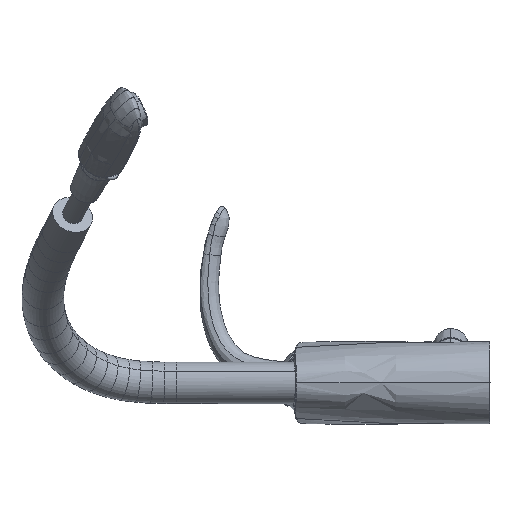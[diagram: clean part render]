
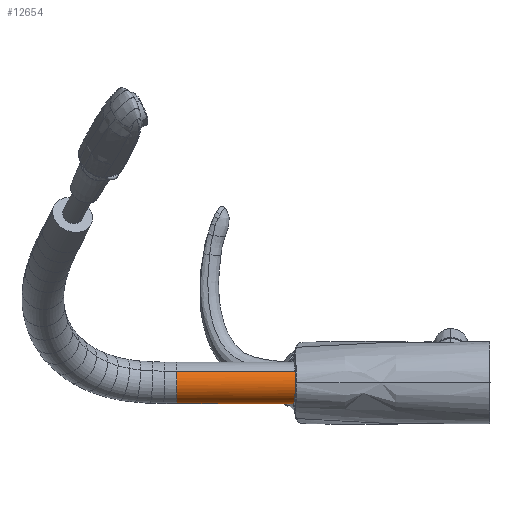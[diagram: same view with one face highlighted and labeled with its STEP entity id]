
A CAD part, left-side view. The second image highlights one B-rep face of the part: STEP entity #12654.
In plain terms, the highlighted cylindrical face has radius 14 mm (diameter 28 mm), a partial arc.
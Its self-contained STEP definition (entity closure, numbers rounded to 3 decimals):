
#318 = CARTESIAN_POINT ( 'NONE',  ( -28.004, 130.771, 2.428 ) ) ;
#409 = CARTESIAN_POINT ( 'NONE',  ( -24.841, 130.994, -9.154 ) ) ;
#505 = CARTESIAN_POINT ( 'NONE',  ( -12.519, 131.861, -13.928 ) ) ;
#597 = CARTESIAN_POINT ( 'NONE',  ( -3.188, 132.513, -8.647 ) ) ;
#831 = CARTESIAN_POINT ( 'NONE',  ( -25.767, 210.333, 7.899 ) ) ;
#1050 = ORIENTED_EDGE ( 'NONE', *, *, #3934, .F. ) ;
#1861 = CIRCLE ( 'NONE', #20018, 14. ) ;
#2006 = CARTESIAN_POINT ( 'NONE',  ( -26.025, 130.911, 7.522 ) ) ;
#2345 = CARTESIAN_POINT ( 'NONE',  ( -2.649, 132.551, -7.899 ) ) ;
#2484 = CARTESIAN_POINT ( 'NONE',  ( -28.176, 130.759, 1.057 ) ) ;
#2577 = CARTESIAN_POINT ( 'NONE',  ( -23.531, 131.087, -10.454 ) ) ;
#2667 = CARTESIAN_POINT ( 'NONE',  ( -10.716, 131.987, -13.565 ) ) ;
#2756 = CARTESIAN_POINT ( 'NONE',  ( -2.649, 132.551, -7.899 ) ) ;
#2871 = EDGE_CURVE ( 'NONE', #9056, #22823, #15949, .T. ) ;
#3934 = EDGE_CURVE ( 'NONE', #26848, #9056, #1861, .T. ) ;
#3947 = CARTESIAN_POINT ( 'NONE',  ( -2.649, 210.333, -7.899 ) ) ;
#4626 = CARTESIAN_POINT ( 'NONE',  ( -28.217, 130.756, -0.778 ) ) ;
#4715 = CARTESIAN_POINT ( 'NONE',  ( -22.102, 131.188, -11.589 ) ) ;
#4813 = CARTESIAN_POINT ( 'NONE',  ( -9.405, 132.079, -13.158 ) ) ;
#5808 = CARTESIAN_POINT ( 'NONE',  ( -14.208, 210.333, 0. ) ) ;
#6113 = CARTESIAN_POINT ( 'NONE',  ( -25.767, 130.929, 7.899 ) ) ;
#6777 = CARTESIAN_POINT ( 'NONE',  ( -27.882, 130.78, -3.041 ) ) ;
#6868 = CARTESIAN_POINT ( 'NONE',  ( -20.518, 131.299, -12.506 ) ) ;
#6962 = CARTESIAN_POINT ( 'NONE',  ( -8.146, 132.167, -12.628 ) ) ;
#7392 = ORIENTED_EDGE ( 'NONE', *, *, #14979, .F. ) ;
#7749 = B_SPLINE_CURVE_WITH_KNOTS ( 'NONE', 3,
 ( #6113, #2006, #8824, #23818, #10979, #25988, #13144, #318, #15314, #2484, #17463, #4626, #19613, #6777, #21759, #8919, #23912, #11073, #26083, #13243, #409, #15406, #2577, #17555, #4715, #19706, #6868, #21850, #9006, #24004, #11169, #26173, #13330, #505, #15498, #2667, #17647, #4813, #19791, #6962, #21942, #9098, #24099, #11264, #26267, #13424, #597, #15589, #2756 ),
 .UNSPECIFIED., .F., .F.,
 ( 4, 2, 2, 2, 2, 2, 2, 2, 2, 2, 2, 2, 1, 2, 2, 2, 2, 2, 2, 2, 2, 2, 2, 2, 4 ),
 ( 0.068, 0.07, 0.071, 0.074, 0.075, 0.077, 0.079, 0.081, 0.082, 0.085, 0.087, 0.089, 0.09, 0.092, 0.093, 0.096, 0.098, 0.101, 0.103, 0.104, 0.105, 0.107, 0.109, 0.111, 0.112 ),
 .UNSPECIFIED. ) ;
#7951 = DIRECTION ( 'NONE',  ( -0.826, 0., 0.564 ) ) ;
#8160 = CARTESIAN_POINT ( 'NONE',  ( -2.649, 210.333, -7.899 ) ) ;
#8228 = DIRECTION ( 'NONE',  ( 0., -1., 0. ) ) ;
#8824 = CARTESIAN_POINT ( 'NONE',  ( -26.264, 130.894, 7.133 ) ) ;
#8919 = CARTESIAN_POINT ( 'NONE',  ( -27.515, 130.806, -4.376 ) ) ;
#9006 = CARTESIAN_POINT ( 'NONE',  ( -18.834, 131.418, -13.246 ) ) ;
#9056 = VERTEX_POINT ( 'NONE', #831 ) ;
#9098 = CARTESIAN_POINT ( 'NONE',  ( -6.938, 132.251, -11.973 ) ) ;
#9601 = EDGE_CURVE ( 'NONE', #26848, #21764, #19244, .T. ) ;
#10110 = CARTESIAN_POINT ( 'NONE',  ( -14.208, 210.333, 0. ) ) ;
#10218 = VECTOR ( 'NONE', #24030, 1000. ) ;
#10979 = CARTESIAN_POINT ( 'NONE',  ( -26.907, 130.849, 5.912 ) ) ;
#11073 = CARTESIAN_POINT ( 'NONE',  ( -26.853, 130.852, -6.078 ) ) ;
#11169 = CARTESIAN_POINT ( 'NONE',  ( -16.177, 131.604, -13.891 ) ) ;
#11264 = CARTESIAN_POINT ( 'NONE',  ( -5.068, 132.382, -10.644 ) ) ;
#12518 = FACE_OUTER_BOUND ( 'NONE', #16668, .T. ) ;
#12637 = ORIENTED_EDGE ( 'NONE', *, *, #2871, .F. ) ;
#12654 = ADVANCED_FACE ( 'NONE', ( #12518 ), #23241, .T. ) ;
#13144 = CARTESIAN_POINT ( 'NONE',  ( -27.722, 130.791, 3.77 ) ) ;
#13243 = CARTESIAN_POINT ( 'NONE',  ( -25.418, 130.954, -8.438 ) ) ;
#13330 = CARTESIAN_POINT ( 'NONE',  ( -13.427, 131.797, -14.008 ) ) ;
#13424 = CARTESIAN_POINT ( 'NONE',  ( -3.78, 132.472, -9.352 ) ) ;
#14351 = DIRECTION ( 'NONE',  ( 0., -1., 0. ) ) ;
#14979 = EDGE_CURVE ( 'NONE', #22823, #21764, #7749, .T. ) ;
#15314 = CARTESIAN_POINT ( 'NONE',  ( -28.076, 130.766, 1.975 ) ) ;
#15406 = CARTESIAN_POINT ( 'NONE',  ( -23.87, 131.063, -10.142 ) ) ;
#15498 = CARTESIAN_POINT ( 'NONE',  ( -11.167, 131.956, -13.673 ) ) ;
#15589 = CARTESIAN_POINT ( 'NONE',  ( -2.908, 132.533, -8.277 ) ) ;
#15949 = LINE ( 'NONE', #26199, #10218 ) ;
#16668 = EDGE_LOOP ( 'NONE', ( #12637, #1050, #24209, #7392 ) ) ;
#17463 = CARTESIAN_POINT ( 'NONE',  ( -28.203, 130.757, 0.595 ) ) ;
#17555 = CARTESIAN_POINT ( 'NONE',  ( -22.829, 131.136, -11.04 ) ) ;
#17647 = CARTESIAN_POINT ( 'NONE',  ( -9.836, 132.049, -13.308 ) ) ;
#18327 = CARTESIAN_POINT ( 'NONE',  ( -25.767, 130.929, 7.899 ) ) ;
#19244 = LINE ( 'NONE', #3947, #26301 ) ;
#19613 = CARTESIAN_POINT ( 'NONE',  ( -28.137, 130.762, -1.687 ) ) ;
#19706 = CARTESIAN_POINT ( 'NONE',  ( -21.323, 131.242, -12.066 ) ) ;
#19791 = CARTESIAN_POINT ( 'NONE',  ( -8.56, 132.138, -12.818 ) ) ;
#20018 = AXIS2_PLACEMENT_3D ( 'NONE', #5808, #20789, #7951 ) ;
#20789 = DIRECTION ( 'NONE',  ( 0., 1., 0. ) ) ;
#21759 = CARTESIAN_POINT ( 'NONE',  ( -27.773, 130.787, -3.493 ) ) ;
#21764 = VERTEX_POINT ( 'NONE', #2345 ) ;
#21850 = CARTESIAN_POINT ( 'NONE',  ( -20.101, 131.328, -12.708 ) ) ;
#21942 = CARTESIAN_POINT ( 'NONE',  ( -7.336, 132.223, -12.206 ) ) ;
#22603 = AXIS2_PLACEMENT_3D ( 'NONE', #10110, #14351, #27190 ) ;
#22823 = VERTEX_POINT ( 'NONE', #18327 ) ;
#23241 = CYLINDRICAL_SURFACE ( 'NONE', #22603, 14. ) ;
#23818 = CARTESIAN_POINT ( 'NONE',  ( -26.704, 130.863, 6.329 ) ) ;
#23912 = CARTESIAN_POINT ( 'NONE',  ( -27.365, 130.816, -4.808 ) ) ;
#24004 = CARTESIAN_POINT ( 'NONE',  ( -17.964, 131.479, -13.518 ) ) ;
#24030 = DIRECTION ( 'NONE',  ( 0., -1., 0. ) ) ;
#24099 = CARTESIAN_POINT ( 'NONE',  ( -5.779, 132.332, -11.216 ) ) ;
#24209 = ORIENTED_EDGE ( 'NONE', *, *, #9601, .T. ) ;
#25988 = CARTESIAN_POINT ( 'NONE',  ( -27.449, 130.81, 4.641 ) ) ;
#26083 = CARTESIAN_POINT ( 'NONE',  ( -26.431, 130.882, -6.889 ) ) ;
#26173 = CARTESIAN_POINT ( 'NONE',  ( -15.252, 131.669, -13.991 ) ) ;
#26199 = CARTESIAN_POINT ( 'NONE',  ( -25.767, 210.333, 7.899 ) ) ;
#26267 = CARTESIAN_POINT ( 'NONE',  ( -4.091, 132.45, -9.687 ) ) ;
#26301 = VECTOR ( 'NONE', #8228, 1000. ) ;
#26848 = VERTEX_POINT ( 'NONE', #8160 ) ;
#27190 = DIRECTION ( 'NONE',  ( 0.826, 0., -0.564 ) ) ;
